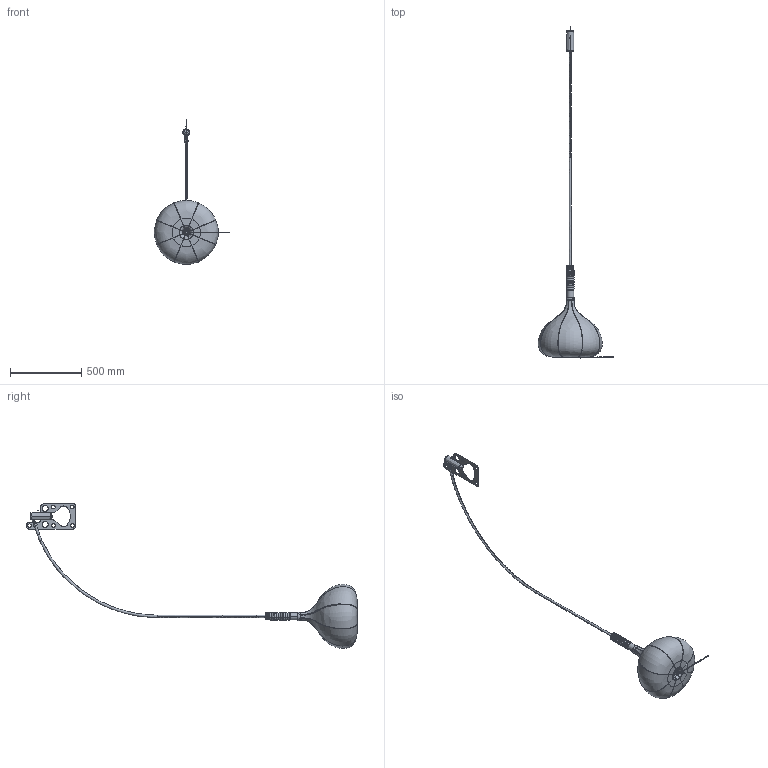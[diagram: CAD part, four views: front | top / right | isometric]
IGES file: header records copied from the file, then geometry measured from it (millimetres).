
Start section: SolidWorks IGES file using analytic representation for surfaces
Global section: file name: \\STORAGE\Tecnico Condiviso\10 NUOVI PROGETTI IN SVILUPPO\NUOVI PROGETTI AXO\AXO076 BULBO\DRAW\3D\2.5A.AXO07.LP01.A1 Export 3D 2021-07-14 (definitivi)\2.5A.AXO07.LP01.A1 Export 3D 2021-07-14\3D Bulbo\PTBUL-BO-3D.IGS; native system: SolidWorks 2021; preprocessor: SolidWorks 2021; author: tecnico3; date: 220426.084853; units: millimetre
Bounding box: 530.03 x 2331.89 x 1017.89 mm (x, y, z)
Surface area: 818803.8 mm2 (no closed solid volume)
Topology: 0 solids, 0 shells, 322 faces, 12480 edges, 12479 vertices
Faces by surface type: revolution 184, bspline 138
